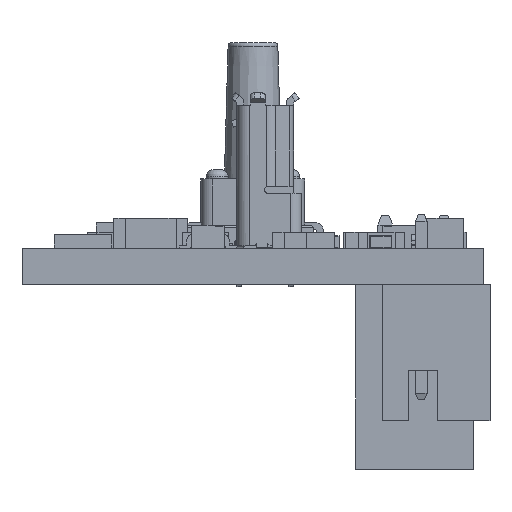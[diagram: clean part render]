
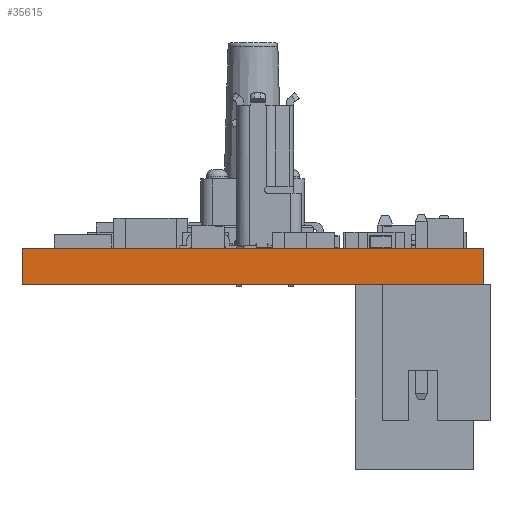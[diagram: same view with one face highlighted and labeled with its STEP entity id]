
A CAD part, left-side view. The second image highlights one B-rep face of the part: STEP entity #35615.
In plain terms, the highlighted planar face has unit normal (-1, 0, 0).
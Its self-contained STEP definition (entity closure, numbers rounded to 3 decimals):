
#1568=PLANE('',#37685);
#2838=FACE_OUTER_BOUND('',#4435,.T.);
#4435=EDGE_LOOP('',(#25903,#25904,#25905,#25906));
#6318=LINE('',#50329,#10518);
#6326=LINE('',#50344,#10526);
#6327=LINE('',#50346,#10527);
#6328=LINE('',#50347,#10528);
#10518=VECTOR('',#40817,10.);
#10526=VECTOR('',#40829,10.);
#10527=VECTOR('',#40832,10.);
#10528=VECTOR('',#40833,10.);
#15890=VERTEX_POINT('',#50326);
#15891=VERTEX_POINT('',#50328);
#15895=VERTEX_POINT('',#50340);
#15896=VERTEX_POINT('',#50342);
#20365=EDGE_CURVE('',#15890,#15891,#6318,.T.);
#20373=EDGE_CURVE('',#15895,#15896,#6326,.T.);
#20374=EDGE_CURVE('',#15890,#15895,#6327,.T.);
#20375=EDGE_CURVE('',#15891,#15896,#6328,.T.);
#25903=ORIENTED_EDGE('',*,*,#20374,.T.);
#25904=ORIENTED_EDGE('',*,*,#20373,.T.);
#25905=ORIENTED_EDGE('',*,*,#20375,.F.);
#25906=ORIENTED_EDGE('',*,*,#20365,.F.);
#35615=ADVANCED_FACE('',(#2838),#1568,.T.);
#37685=AXIS2_PLACEMENT_3D('',#50345,#40830,#40831);
#40817=DIRECTION('',(0.,0.,1.));
#40829=DIRECTION('',(0.,0.,1.));
#40830=DIRECTION('center_axis',(-1.,0.,0.));
#40831=DIRECTION('ref_axis',(0.,-1.,0.));
#40832=DIRECTION('',(0.,-1.,0.));
#40833=DIRECTION('',(0.,-1.,0.));
#50326=CARTESIAN_POINT('',(0.,20.,0.));
#50328=CARTESIAN_POINT('',(0.,20.,1.57));
#50329=CARTESIAN_POINT('',(0.,20.,0.));
#50340=CARTESIAN_POINT('',(0.,0.,0.));
#50342=CARTESIAN_POINT('',(0.,0.,1.57));
#50344=CARTESIAN_POINT('',(0.,0.,0.));
#50345=CARTESIAN_POINT('Origin',(0.,20.,0.));
#50346=CARTESIAN_POINT('',(0.,20.,0.));
#50347=CARTESIAN_POINT('',(0.,20.,1.57));
